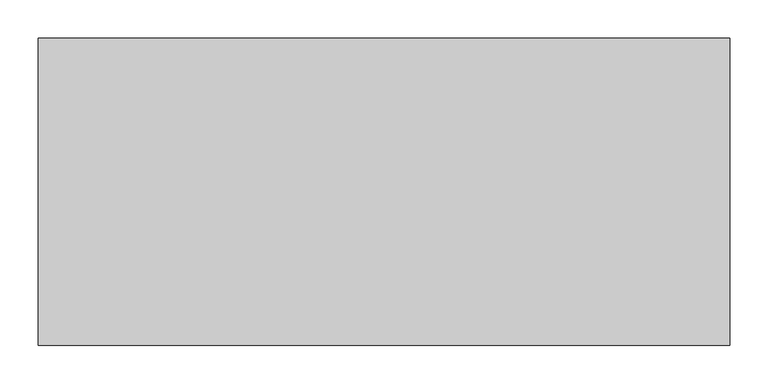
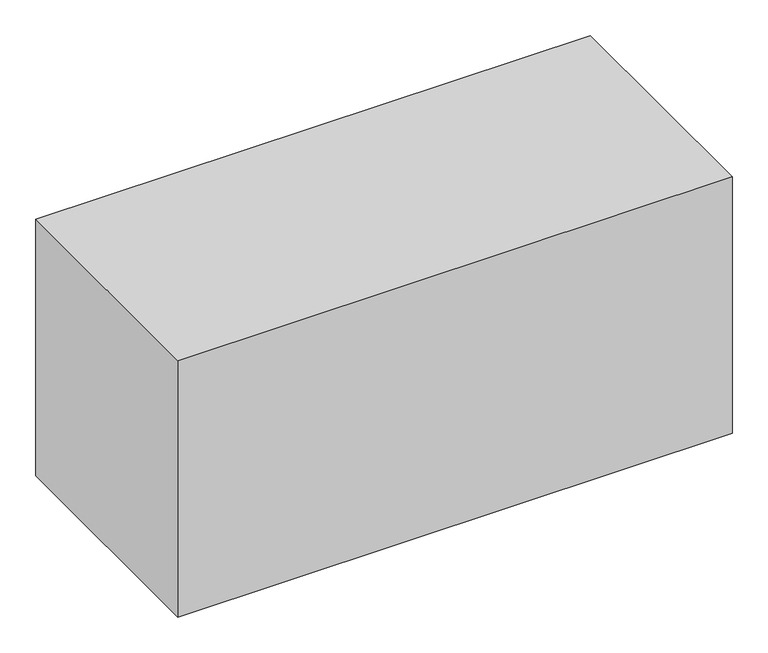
"""IFC4 building model written with IfcOpenShell, lengths in millimetres: proxy geometry, DMS-BWIC Family : BWIC_Square."""

from ifc_helpers import new_model, si_unit, frame, origin, place, context, project, spatial, polyline, outline, extrude, source, transform, mapped, element, save


def generic_models_067c08be(model_context):
    return source(origin(), model_context, "Body", "SweptSolid", [
        extrude(outline(polyline([(450.0, 200.0), (450.0, -200.0), (-450.0, -200.0), (-450.0, 200.0), (450.0, 200.0)])), frame((0.0, 0.0, -440.0), z_axis=(0.0, 0.0, 1.0), x_axis=(1.0, 0.0, 0.0)), (0.0, 0.0, 1.0), 440.0),
    ])


if __name__ == "__main__":
    model = new_model("IFC4")
    model_context = context("Model", 3, world=origin())
    ifc_project = project(units=[si_unit("LENGTHUNIT", "METRE", prefix="MILLI")], contexts=[model_context])
    site = spatial("IfcSite", under=ifc_project)
    building = spatial("IfcBuilding", under=site)
    placement = place(None, origin())
    generic_models_shape = generic_models_067c08be(model_context)
    element("IfcBuildingElementProxy", 1, Name="DMS-BWIC Family : BWIC_Square", ObjectType="DMS-BWIC Family : BWIC_Square", at=placement, inside=building, context=model_context, shape_type="MappedRepresentation", body=[
        mapped(generic_models_shape, transform((0.0, 0.0, 0.0), x_axis=(1.0, 0.0, 0.0), y_axis=(0.0, 1.0, 0.0), z_axis=(0.0, 0.0, 1.0))),
    ])
    save(model, "model.ifc")
